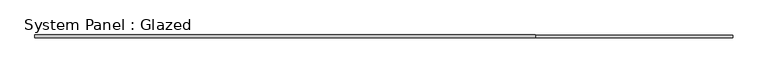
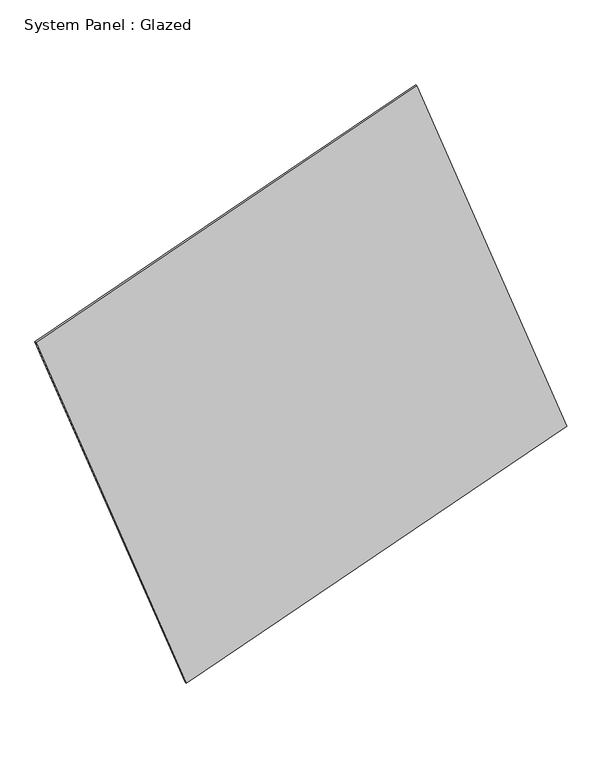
"""IFC4 building model written with IfcOpenShell, lengths in millimetres: plate geometry, System Panel : Glazed."""

from ifc_helpers import new_model, si_unit, frame, origin, place, context, project, spatial, polyline, outline, extrude, source, transform, mapped, element, save


def system_panel_glazed_3bba1568(model_context):
    return source(origin(), model_context, "Body", "SweptSolid", [
        extrude(outline(polyline([(0.0, -512.1347711), (615.5494854, 1179.0739189), (2447.950096, 512.1346394), (1832.4006585, -1179.0739189), (0.0, -512.1347711)])), frame((0.0, -5.0, 0.0), z_axis=(0.0, 1.0, 0.0), x_axis=(0.0, 0.0, 1.0)), (0.0, 0.0, 1.0), 10.0),
    ])


if __name__ == "__main__":
    model = new_model("IFC4")
    model_context = context("Model", 3, world=origin())
    ifc_project = project(units=[si_unit("LENGTHUNIT", "METRE", prefix="MILLI")], contexts=[model_context])
    site = spatial("IfcSite", under=ifc_project)
    building = spatial("IfcBuilding", under=site)
    placement = place(None, origin())
    system_panel_glazed_shape = system_panel_glazed_3bba1568(model_context)
    element("IfcPlate", 1, ObjectType="System Panel : Glazed", at=placement, inside=building, context=model_context, shape_type="MappedRepresentation", body=[
        mapped(system_panel_glazed_shape, transform((0.0, 0.0, 0.0), x_axis=(1.0, 0.0, 0.0), y_axis=(0.0, 1.0, 0.0), z_axis=(0.0, 0.0, 1.0))),
    ])
    save(model, "model.ifc")
